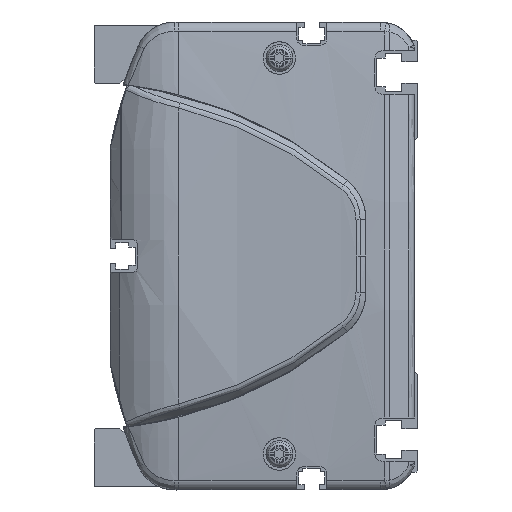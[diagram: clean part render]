
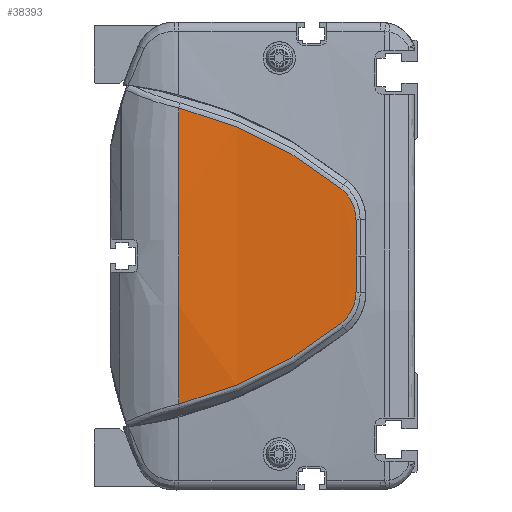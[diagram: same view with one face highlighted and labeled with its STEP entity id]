
A CAD part, left-side view. The second image highlights one B-rep face of the part: STEP entity #38393.
In plain terms, the highlighted cylindrical face has radius 500 mm (diameter 1000 mm), a partial arc.
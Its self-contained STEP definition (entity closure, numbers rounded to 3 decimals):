
#34629=CARTESIAN_POINT('',(486.,66.362,0.));
#34630=DIRECTION('',(0.,-1.,0.));
#34631=DIRECTION('',(-0.997,0.,0.082));
#34632=AXIS2_PLACEMENT_3D('',#34629,#34630,#34631);
#35512=CARTESIAN_POINT('',(-13.648,21.313,
-18.759));
#35513=CARTESIAN_POINT('',(-13.449,27.904,
-24.058));
#35514=CARTESIAN_POINT('',(-12.934,42.195,
-33.27));
#35515=CARTESIAN_POINT('',(-12.471,58.156,
-39.127));
#35516=CARTESIAN_POINT('',(-12.306,66.362,
-41.121));
#35518=CARTESIAN_POINT('',(-12.306,66.362,
41.121));
#35519=CARTESIAN_POINT('',(-12.471,58.156,
39.127));
#35520=CARTESIAN_POINT('',(-12.934,42.195,
33.27));
#35521=CARTESIAN_POINT('',(-13.449,27.904,
24.058));
#35522=CARTESIAN_POINT('',(-13.648,21.313,
18.759));
#35524=CARTESIAN_POINT('',(-13.648,21.313,
18.759));
#35525=CARTESIAN_POINT('',(-13.686,20.035,
17.736));
#35526=CARTESIAN_POINT('',(-13.779,17.936,
15.107));
#35527=CARTESIAN_POINT('',(-13.863,17.152,
11.827));
#35528=CARTESIAN_POINT('',(-13.896,17.124,
10.178));
#35530=CARTESIAN_POINT('',(-13.896,17.124,
10.178));
#35531=CARTESIAN_POINT('',(-13.92,17.107,
9.025));
#35532=CARTESIAN_POINT('',(-13.959,17.067,
6.734));
#35533=CARTESIAN_POINT('',(-13.993,16.98,
3.339));
#35534=CARTESIAN_POINT('',(-14.,16.898,
1.108));
#35535=CARTESIAN_POINT('',(-14.,16.849,
0.));
#35537=CARTESIAN_POINT('',(-14.,16.849,
0.));
#35538=CARTESIAN_POINT('',(-14.,16.898,
-1.108));
#35539=CARTESIAN_POINT('',(-13.993,16.98,
-3.34));
#35540=CARTESIAN_POINT('',(-13.959,17.067,
-6.733));
#35541=CARTESIAN_POINT('',(-13.92,17.107,
-9.027));
#35542=CARTESIAN_POINT('',(-13.896,17.124,
-10.18));
#35544=CARTESIAN_POINT('',(-13.896,17.124,
-10.18));
#35545=CARTESIAN_POINT('',(-13.863,17.152,
-11.828));
#35546=CARTESIAN_POINT('',(-13.779,17.937,
-15.109));
#35547=CARTESIAN_POINT('',(-13.686,20.035,
-17.736));
#35548=CARTESIAN_POINT('',(-13.648,21.313,
-18.759));
#36215=VERTEX_POINT('',#35512);
#36216=VERTEX_POINT('',#35516);
#36217=CARTESIAN_POINT('',(-12.306,66.362,
41.121));
#36218=VERTEX_POINT('',#36217);
#36219=VERTEX_POINT('',#35522);
#36220=VERTEX_POINT('',#35528);
#36221=VERTEX_POINT('',#35535);
#36222=VERTEX_POINT('',#35542);
#38374=CARTESIAN_POINT('',(486.,8.006,0.));
#38375=DIRECTION('',(0.,1.,0.));
#38376=DIRECTION('',(1.,0.,0.));
#38377=AXIS2_PLACEMENT_3D('',#38374,#38375,#38376);
#38378=CYLINDRICAL_SURFACE('',#38377,500.);
#38380=ORIENTED_EDGE('',*,*,#38379,.T.);
#38381=ORIENTED_EDGE('',*,*,#37017,.F.);
#38383=ORIENTED_EDGE('',*,*,#38382,.T.);
#38385=ORIENTED_EDGE('',*,*,#38384,.T.);
#38387=ORIENTED_EDGE('',*,*,#38386,.T.);
#38389=ORIENTED_EDGE('',*,*,#38388,.T.);
#38390=ORIENTED_EDGE('',*,*,#38364,.T.);
#38391=EDGE_LOOP('',(#38380,#38381,#38383,#38385,#38387,#38389,#38390));
#38392=FACE_OUTER_BOUND('',#38391,.F.);
#38393=ADVANCED_FACE('',(#38392),#38378,.T.);
#34633=CIRCLE('',#34632,500.);
#35517=B_SPLINE_CURVE_WITH_KNOTS('',3,(#35512,#35513,#35514,#35515,#35516),
.UNSPECIFIED.,.F.,.F.,(4,1,4),(0.,0.5,1.),.UNSPECIFIED.);
#35523=B_SPLINE_CURVE_WITH_KNOTS('',3,(#35518,#35519,#35520,#35521,#35522),
.UNSPECIFIED.,.F.,.F.,(4,1,4),(0.,0.5,1.),.UNSPECIFIED.);
#35529=B_SPLINE_CURVE_WITH_KNOTS('',3,(#35524,#35525,#35526,#35527,#35528),
.UNSPECIFIED.,.F.,.F.,(4,1,4),(0.,0.5,1.),.UNSPECIFIED.);
#35536=B_SPLINE_CURVE_WITH_KNOTS('',3,(#35530,#35531,#35532,#35533,#35534,
#35535),.UNSPECIFIED.,.F.,.F.,(4,1,1,4),(0.,0.333,
0.667,1.),.UNSPECIFIED.);
#35543=B_SPLINE_CURVE_WITH_KNOTS('',3,(#35537,#35538,#35539,#35540,#35541,
#35542),.UNSPECIFIED.,.F.,.F.,(4,1,1,4),(0.,0.333,
0.667,1.),.UNSPECIFIED.);
#35549=B_SPLINE_CURVE_WITH_KNOTS('',3,(#35544,#35545,#35546,#35547,#35548),
.UNSPECIFIED.,.F.,.F.,(4,1,4),(0.,0.5,1.),.UNSPECIFIED.);
#37017=EDGE_CURVE('',#36218,#36216,#34633,.T.);
#38364=EDGE_CURVE('',#36222,#36215,#35549,.T.);
#38379=EDGE_CURVE('',#36215,#36216,#35517,.T.);
#38382=EDGE_CURVE('',#36218,#36219,#35523,.T.);
#38384=EDGE_CURVE('',#36219,#36220,#35529,.T.);
#38386=EDGE_CURVE('',#36220,#36221,#35536,.T.);
#38388=EDGE_CURVE('',#36221,#36222,#35543,.T.);
